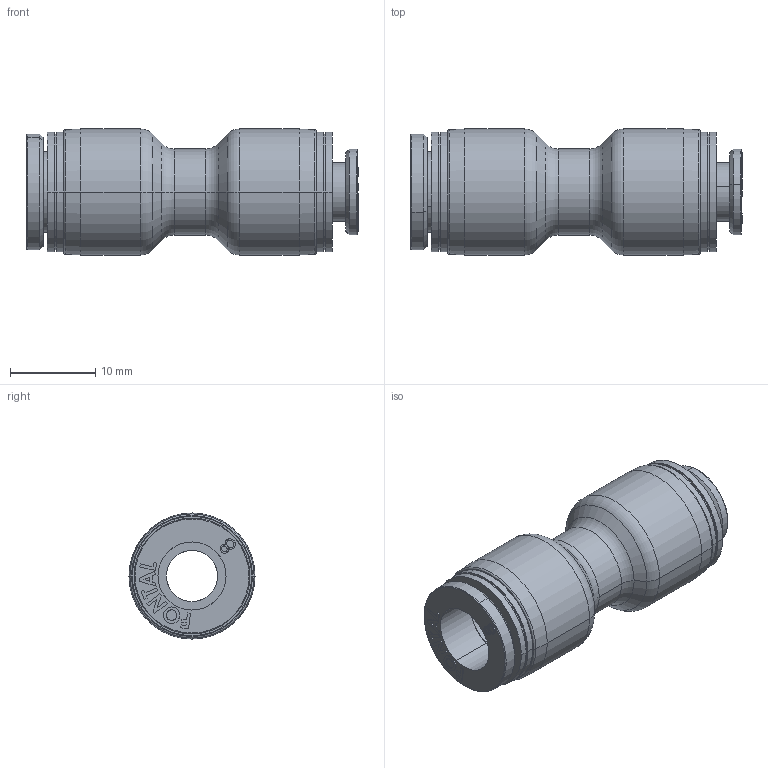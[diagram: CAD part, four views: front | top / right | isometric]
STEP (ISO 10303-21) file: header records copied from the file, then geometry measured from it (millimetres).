
FILE_DESCRIPTION (( 'STEP AP203' ), '1' );
FILE_NAME ('FPG8-6.STEP', '2016-01-14T20:59:22', ( '' ), ( '' ), 'SwSTEP 2.0', 'SolidWorks 2014', '' );
FILE_SCHEMA (( 'CONFIG_CONTROL_DESIGN' ));
Length unit declared in the file: millimetre
Products named in the file (4): FPC8-01-A; FPG8-6; FPG8-6-B; FPC6-M5-A
Assembly tree (3 placements, depth 2):
  FPG8-6
    FPG8-6-B
    FPC8-01-A
    FPC6-M5-A
Bounding box: 38.97 x 14.8 x 14.8 mm (x, y, z)
Volume: 4020.8 mm3; surface area: 3267.2 mm2
Topology: 3 solids, 3 shells, 243 faces, 584 edges, 378 vertices
Faces by surface type: plane 130, bspline 45, cylinder 38, torus 18, cone 12
Entity records: 9948 total; most frequent: CARTESIAN_POINT 4056, ORIENTED_EDGE 1168, DIRECTION 1028, EDGE_CURVE 584, VERTEX_POINT 378, VECTOR 372, LINE 372, AXIS2_PLACEMENT_3D 328
